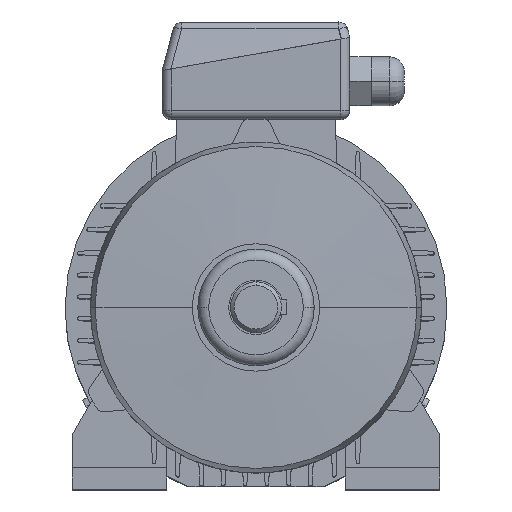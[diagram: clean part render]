
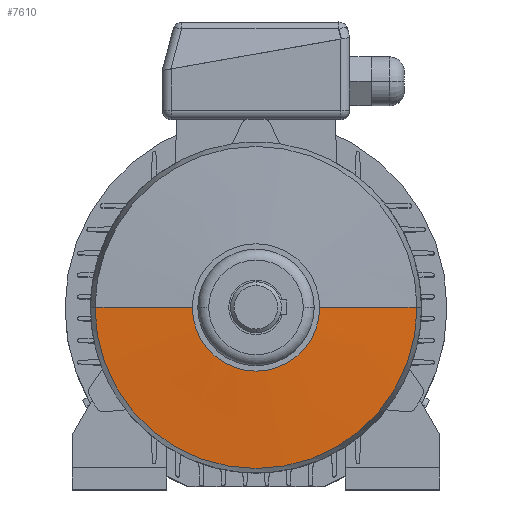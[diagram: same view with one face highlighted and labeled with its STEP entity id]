
A CAD part, top view. The second image highlights one B-rep face of the part: STEP entity #7610.
In plain terms, the highlighted conical face has half-angle 87.326 degrees and reference radius 35 mm.
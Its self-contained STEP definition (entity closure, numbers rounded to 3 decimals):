
#304 = EDGE_CURVE ( 'NONE', #20032, #11161, #20408, .T. ) ;
#484 = EDGE_CURVE ( 'NONE', #720, #11161, #20731, .T. ) ;
#720 = VERTEX_POINT ( 'NONE', #21207 ) ;
#17966 = CARTESIAN_POINT ( 'NONE',  ( 88.531, 0., 26. ) ) ;
#2726 = CIRCLE ( 'NONE', #2727, 35. ) ;
#2727 = AXIS2_PLACEMENT_3D ( 'NONE', #2728, #2729, #2730 ) ;
#2728 = CARTESIAN_POINT ( 'NONE',  ( 0., 0., 28.5 ) ) ;
#2729 = DIRECTION ( 'NONE',  ( 0., 0., -1. ) ) ;
#2730 = DIRECTION ( 'NONE',  ( -1., 0., 0. ) ) ;
#3010 = VERTEX_POINT ( 'NONE', #24356 ) ;
#20032 = VERTEX_POINT ( 'NONE', #17966 ) ;
#20408 = CIRCLE ( 'NONE', #20409, 88.531 ) ;
#20409 = AXIS2_PLACEMENT_3D ( 'NONE', #20433, #20434, #20435 ) ;
#20433 = CARTESIAN_POINT ( 'NONE',  ( 0., 0., 26. ) ) ;
#20434 = DIRECTION ( 'NONE',  ( 0., 0., -1. ) ) ;
#20435 = DIRECTION ( 'NONE',  ( -1., 0., 0. ) ) ;
#4086 = ORIENTED_EDGE ( 'NONE', *, *, #304, .F. ) ;
#20731 = LINE ( 'NONE', #20732, #20733 ) ;
#20732 = CARTESIAN_POINT ( 'NONE',  ( -35., 0., 28.5 ) ) ;
#20733 = VECTOR ( 'NONE', #20734, 1000. ) ;
#20734 = DIRECTION ( 'NONE',  ( -0.999, 0., -0.047 ) ) ;
#21207 = CARTESIAN_POINT ( 'NONE',  ( -35., 0., 28.5 ) ) ;
#4946 = ORIENTED_EDGE ( 'NONE', *, *, #484, .T. ) ;
#5009 = FACE_OUTER_BOUND ( 'NONE', #7315, .T. ) ;
#5010 = CONICAL_SURFACE ( 'NONE', #5011, 35., 1.524 ) ;
#5011 = AXIS2_PLACEMENT_3D ( 'NONE', #5012, #5013, #5014 ) ;
#5012 = CARTESIAN_POINT ( 'NONE',  ( 0., 0., 28.5 ) ) ;
#5013 = DIRECTION ( 'NONE',  ( 0., 0., -1. ) ) ;
#5014 = DIRECTION ( 'NONE',  ( -1., 0., 0. ) ) ;
#5584 = EDGE_CURVE ( 'NONE', #3010, #720, #2726, .T. ) ;
#6036 = ORIENTED_EDGE ( 'NONE', *, *, #5584, .T. ) ;
#6679 = ORIENTED_EDGE ( 'NONE', *, *, #16241, .F. ) ;
#7315 = EDGE_LOOP ( 'NONE', ( #6679, #6036, #4946, #4086 ) ) ;
#7610 = ADVANCED_FACE ( 'NONE', ( #5009 ), #5010, .T. ) ;
#24356 = CARTESIAN_POINT ( 'NONE',  ( 35., 0., 28.5 ) ) ;
#8763 = CARTESIAN_POINT ( 'NONE',  ( -88.531, 0., 26. ) ) ;
#11161 = VERTEX_POINT ( 'NONE', #8763 ) ;
#13709 = LINE ( 'NONE', #13710, #13711 ) ;
#13710 = CARTESIAN_POINT ( 'NONE',  ( 35., 0., 28.5 ) ) ;
#13711 = VECTOR ( 'NONE', #13712, 1000. ) ;
#13712 = DIRECTION ( 'NONE',  ( 0.999, 0., -0.047 ) ) ;
#16241 = EDGE_CURVE ( 'NONE', #3010, #20032, #13709, .T. ) ;
